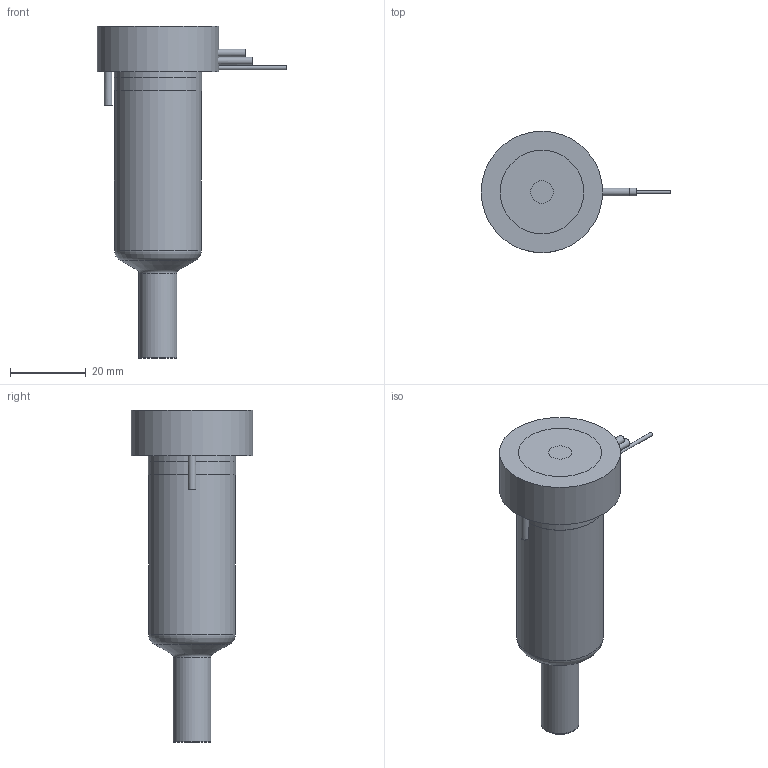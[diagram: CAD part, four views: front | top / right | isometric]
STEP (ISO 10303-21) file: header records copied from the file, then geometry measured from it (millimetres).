
FILE_DESCRIPTION(/* description */ (''),/* implementation_level */ '2;1');
FILE_NAME(/* name */ 'MXYCN13055N3F_250C_a',/* time_stamp */ '2016-02-23T11:38:19+13:00',/* author */ (''),/* organization */ (''),/* preprocessor_version */ 'ST-DEVELOPER v9',/* originating_system */ 'UGS - NX 4.0',/* authorisation */ '');
FILE_SCHEMA (('CONFIG_CONTROL_DESIGN'));
Length unit declared in the file: millimetre
Products named in the file (1): matt48E8yts7
Bounding box: 49.95 x 32 x 87.47 mm (x, y, z)
Volume: 53409.1 mm3; surface area: 13970.4 mm2
Topology: 2 solids, 2 shells, 71 faces, 156 edges, 102 vertices
Faces by surface type: plane 31, cylinder 26, torus 7, cone 5, bspline 1, sphere 1
Full cylindrical faces by diameter (mm): 1 x2, 1.8 x1, 2 x3, 4 x1, 6 x1, 9.61 x1, 9.995 x2, 12.6 x1, 18.8 x1, 22.9 x1, 23 x2, 32 x1
Entity records: 2121 total; most frequent: CARTESIAN_POINT 614, DIRECTION 314, ORIENTED_EDGE 234, AXIS2_PLACEMENT_3D 141, EDGE_CURVE 117, EDGE_LOOP 114, VERTEX_POINT 91, ADVANCED_FACE 71
